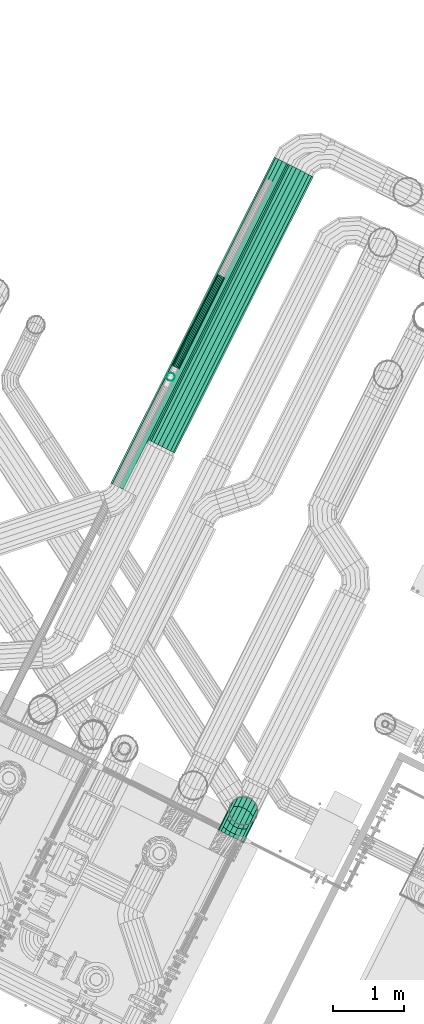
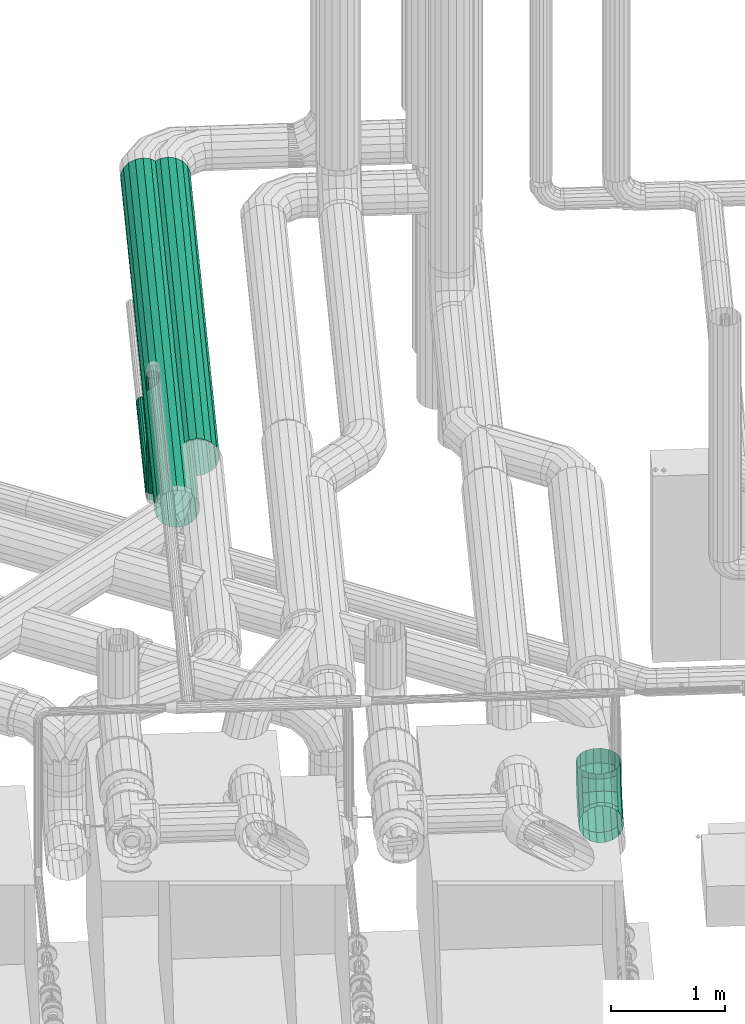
# One storey, part 22 of 206: 4 flow segments, 2 flow fittings.
"""IFC2X3 building model written with IfcOpenShell, lengths in metres."""

from ifc_helpers import new_model, si_unit, derived_unit, direction, frame, origin, place, context, subcontext, project, spatial, face_set, surface_model, source, transform, mapped, material, type_object, type_shapes, element, save


model = new_model("IFC2X3")

# Units and contexts
model_context = context("Model", 3, precision=5.2338327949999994e-05, world=origin(), true_north=direction((0.0, 1.0)))
body_context = subcontext(model_context, "Body", "Model", "MODEL_VIEW")
ifc_project = project(units=[si_unit("LENGTHUNIT", "METRE"), si_unit("AREAUNIT", "SQUARE_METRE"), si_unit("VOLUMEUNIT", "CUBIC_METRE"), si_unit("MASSUNIT", "GRAM", prefix="KILO"), si_unit("PLANEANGLEUNIT", "RADIAN"), derived_unit("THERMALTRANSMITTANCEUNIT", [(si_unit("MASSUNIT", "GRAM", prefix="KILO"), 1), (si_unit("THERMODYNAMICTEMPERATUREUNIT", "KELVIN"), -1), (si_unit("TIMEUNIT", "SECOND"), -3)])], contexts=[model_context])

# Site, building, storey
site_placement = place(None, frame((0.0, 0.0, 0.0), z_axis=(0.0, 0.0, 1.0), x_axis=(0.8939966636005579, -0.4480736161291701, 0.0)))
site = spatial("IfcSite", under=ifc_project, at=site_placement, Name="Default", CompositionType="ELEMENT")
building_placement = place(site_placement, origin())
building = spatial("IfcBuilding", under=site, at=building_placement, CompositionType="ELEMENT")
storey_placement = place(building_placement, origin())
storey = spatial("IfcBuildingStorey", under=building, at=storey_placement, Name="Erdgeschoss", CompositionType="ELEMENT", Elevation=0.0)

# Flow fittings
ifc_material_1 = material(Name="IfcSurfaceStyle #251447")
distribution_element_type_1 = type_object("IfcDistributionElementType", material=ifc_material_1)
shared_shape_1 = source(origin(), body_context, "Body", "SurfaceModel", [
    surface_model("IfcFaceBasedSurfaceModel", [(27.115508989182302, 8.028208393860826, 1.2300000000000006), (27.127570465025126, 8.028208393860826, 1.2984040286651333), (27.127570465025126, 8.11705926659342, 1.2984040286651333), (27.115508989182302, 8.135388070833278, 1.2300000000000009), (27.162300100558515, 8.028208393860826, 1.3585575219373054), (27.162300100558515, 8.10094118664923, 1.3585575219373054), (27.215508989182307, 8.028208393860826, 1.4032050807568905), (27.215508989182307, 8.088977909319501, 1.4032050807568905), (27.280779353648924, 8.028208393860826, 1.4269615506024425), (27.280779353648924, 8.082612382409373, 1.4269615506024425), (27.350238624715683, 8.028208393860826, 1.4269615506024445), (27.350238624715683, 8.082612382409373, 1.4269615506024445), (27.415508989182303, 8.028208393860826, 1.4032050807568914), (27.415508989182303, 8.088977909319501, 1.4032050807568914), (27.468717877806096, 8.028208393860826, 1.35855752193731), (27.468717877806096, 8.10094118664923, 1.35855752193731), (27.503447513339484, 8.028208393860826, 1.2984040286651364), (27.503447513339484, 8.117059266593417, 1.2984040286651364), (27.51550898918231, 8.028208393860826, 1.230000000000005), (27.515508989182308, 8.135388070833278, 1.2299999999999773), (27.503447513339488, 8.028208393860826, 1.1615959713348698), (27.503447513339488, 8.153716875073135, 1.1615959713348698), (27.4687178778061, 8.028208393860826, 1.1014424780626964), (27.4687178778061, 8.169834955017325, 1.1014424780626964), (27.415508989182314, 8.028208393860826, 1.0567949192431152), (27.415508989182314, 8.181798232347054, 1.0567949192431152), (27.350238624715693, 8.028208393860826, 1.0330384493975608), (27.350238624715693, 8.188163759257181, 1.0330384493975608), (27.280779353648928, 8.028208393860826, 1.03303844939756), (27.280779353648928, 8.188163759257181, 1.03303844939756), (27.21550898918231, 8.028208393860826, 1.0567949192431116), (27.21550898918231, 8.181798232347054, 1.0567949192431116), (27.162300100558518, 8.028208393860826, 1.1014424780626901), (27.162300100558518, 8.169834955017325, 1.1014424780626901), (27.127570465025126, 8.028208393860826, 1.1615959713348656), (27.127570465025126, 8.153716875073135, 1.1615959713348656), (27.12757046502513, 8.270953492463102, 1.3872549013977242), (27.115508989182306, 8.321028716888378, 1.3371796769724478), (27.162300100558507, 8.22691807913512, 1.4312903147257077), (27.2155089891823, 8.194233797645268, 1.4639745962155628), (27.280779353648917, 8.176842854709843, 1.481365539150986), (27.350238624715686, 8.176842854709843, 1.481365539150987), (27.415508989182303, 8.194233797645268, 1.4639745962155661), (27.468717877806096, 8.22691807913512, 1.4312903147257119), (27.50344751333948, 8.270953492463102, 1.387254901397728), (27.515508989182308, 8.321028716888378, 1.3371796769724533), (27.503447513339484, 8.371103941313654, 1.2871044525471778), (27.4687178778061, 8.415139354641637, 1.2430690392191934), (27.415508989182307, 8.447823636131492, 1.210384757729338), (27.350238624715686, 8.465214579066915, 1.192993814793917), (27.280779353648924, 8.465214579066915, 1.192993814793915), (27.21550898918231, 8.447823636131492, 1.210384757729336), (27.162300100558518, 8.415139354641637, 1.2430690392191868), (27.127570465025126, 8.371103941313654, 1.2871044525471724), (27.127570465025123, 8.359804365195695, 1.5411491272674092), (27.1155089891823, 8.428208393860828, 1.5228203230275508), (27.162300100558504, 8.29965087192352, 1.5572672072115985), (27.2155089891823, 8.255003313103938, 1.5692304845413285), (27.280779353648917, 8.231246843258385, 1.5755960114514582), (27.350238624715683, 8.231246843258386, 1.5755960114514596), (27.4155089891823, 8.25500331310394, 1.56923048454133), (27.468717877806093, 8.29965087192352, 1.557267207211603), (27.50344751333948, 8.359804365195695, 1.5411491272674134), (27.515508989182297, 8.428208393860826, 1.522820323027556), (27.503447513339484, 8.496612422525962, 1.5044915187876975), (27.468717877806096, 8.556765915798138, 1.4883734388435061), (27.4155089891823, 8.601413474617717, 1.4764101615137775), (27.350238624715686, 8.625169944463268, 1.4700446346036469), (27.280779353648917, 8.625169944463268, 1.4700446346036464), (27.2155089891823, 8.601413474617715, 1.4764101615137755), (27.162300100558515, 8.556765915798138, 1.4883734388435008), (27.127570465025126, 8.496612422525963, 1.5044915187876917), (27.127570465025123, 8.359804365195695, 1.6299999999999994), (27.115508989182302, 8.428208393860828, 1.6299999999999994), (27.162300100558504, 8.29965087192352, 1.6300000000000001), (27.215508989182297, 8.255003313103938, 1.6300000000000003), (27.280779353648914, 8.231246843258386, 1.6300000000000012), (27.350238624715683, 8.231246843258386, 1.630000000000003), (27.4155089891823, 8.255003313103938, 1.630000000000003), (27.468717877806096, 8.299650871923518, 1.6300000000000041), (27.50344751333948, 8.359804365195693, 1.6300000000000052), (27.51550898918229, 8.42820839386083, 1.6300000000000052), (27.503447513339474, 8.496612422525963, 1.6300000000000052), (27.468717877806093, 8.556765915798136, 1.6300000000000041), (27.4155089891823, 8.601413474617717, 1.630000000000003), (27.350238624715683, 8.625169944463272, 1.6300000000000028), (27.280779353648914, 8.62516994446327, 1.6300000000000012), (27.215508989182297, 8.601413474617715, 1.6300000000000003), (27.162300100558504, 8.556765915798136, 1.6300000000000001), (27.127570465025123, 8.496612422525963, 1.6299999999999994)], [face_set([[[0, 1, 2, 3]], [[1, 4, 5, 2]], [[4, 6, 7, 5]], [[6, 8, 9, 7]], [[8, 10, 11, 9]], [[10, 12, 13, 11]], [[12, 14, 15, 13]], [[14, 16, 17, 15]], [[16, 18, 19, 17]], [[18, 20, 21, 19]], [[20, 22, 23, 21]], [[22, 24, 25, 23]], [[24, 26, 27, 25]], [[26, 28, 29, 27]], [[28, 30, 31, 29]], [[30, 32, 33, 31]], [[32, 34, 35, 33]], [[34, 0, 3, 35]], [[3, 2, 36, 37]], [[2, 5, 38, 36]], [[5, 7, 39, 38]], [[7, 9, 40, 39]], [[9, 11, 41, 40]], [[11, 13, 42, 41]], [[13, 15, 43, 42]], [[15, 17, 44, 43]], [[17, 19, 45, 44]], [[19, 21, 46, 45]], [[21, 23, 47, 46]], [[23, 25, 48, 47]], [[25, 27, 49, 48]], [[27, 29, 50, 49]], [[29, 31, 51, 50]], [[31, 33, 52, 51]], [[33, 35, 53, 52]], [[35, 3, 37, 53]], [[37, 36, 54, 55]], [[36, 38, 56, 54]], [[38, 39, 57, 56]], [[39, 40, 58, 57]], [[40, 41, 59, 58]], [[41, 42, 60, 59]], [[42, 43, 61, 60]], [[43, 44, 62, 61]], [[44, 45, 63, 62]], [[45, 46, 64, 63]], [[46, 47, 65, 64]], [[47, 48, 66, 65]], [[48, 49, 67, 66]], [[49, 50, 68, 67]], [[50, 51, 69, 68]], [[51, 52, 70, 69]], [[52, 53, 71, 70]], [[53, 37, 55, 71]], [[55, 54, 72, 73]], [[54, 56, 74, 72]], [[56, 57, 75, 74]], [[57, 58, 76, 75]], [[58, 59, 77, 76]], [[59, 60, 78, 77]], [[60, 61, 79, 78]], [[61, 62, 80, 79]], [[62, 63, 81, 80]], [[63, 64, 82, 81]], [[64, 65, 83, 82]], [[65, 66, 84, 83]], [[66, 67, 85, 84]], [[67, 68, 86, 85]], [[68, 69, 87, 86]], [[69, 70, 88, 87]], [[70, 71, 89, 88]], [[71, 55, 73, 89]]])]),
])
type_shapes(distribution_element_type_1, [shared_shape_1])
flow_fitting_1_placement = place(storey_placement, origin())
element("IfcFlowFitting", 1, at=flow_fitting_1_placement, inside=storey, type_object=distribution_element_type_1, material=ifc_material_1, Name="Segmentbogen 4 teilig", ObjectType="Segmentbogen 4 teilig", context=body_context, shape_type="MappedRepresentation", body=[
    mapped(shared_shape_1, transform((0.0, 0.0, 0.0), scale=1.0)),
])
distribution_element_type_2 = type_object("IfcDistributionElementType", material=ifc_material_1)
shared_shape_2 = source(origin(), body_context, "Body", "SurfaceModel", [
    surface_model("IfcFaceBasedSurfaceModel", [(27.115508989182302, 8.028208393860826, 1.2300000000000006), (27.127570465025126, 8.028208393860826, 1.2984040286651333), (27.127570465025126, 8.11705926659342, 1.2984040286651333), (27.115508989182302, 8.135388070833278, 1.2300000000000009), (27.162300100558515, 8.028208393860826, 1.3585575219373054), (27.162300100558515, 8.10094118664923, 1.3585575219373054), (27.215508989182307, 8.028208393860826, 1.4032050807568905), (27.215508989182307, 8.088977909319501, 1.4032050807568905), (27.280779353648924, 8.028208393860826, 1.4269615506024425), (27.280779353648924, 8.082612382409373, 1.4269615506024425), (27.350238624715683, 8.028208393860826, 1.4269615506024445), (27.350238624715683, 8.082612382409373, 1.4269615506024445), (27.415508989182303, 8.028208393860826, 1.4032050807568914), (27.415508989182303, 8.088977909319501, 1.4032050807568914), (27.468717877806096, 8.028208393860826, 1.35855752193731), (27.468717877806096, 8.10094118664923, 1.35855752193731), (27.503447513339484, 8.028208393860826, 1.2984040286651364), (27.503447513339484, 8.117059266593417, 1.2984040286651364), (27.51550898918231, 8.028208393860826, 1.230000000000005), (27.515508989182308, 8.135388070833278, 1.2299999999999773), (27.503447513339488, 8.028208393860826, 1.1615959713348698), (27.503447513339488, 8.153716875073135, 1.1615959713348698), (27.4687178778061, 8.028208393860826, 1.1014424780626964), (27.4687178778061, 8.169834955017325, 1.1014424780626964), (27.415508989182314, 8.028208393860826, 1.0567949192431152), (27.415508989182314, 8.181798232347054, 1.0567949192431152), (27.350238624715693, 8.028208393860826, 1.0330384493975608), (27.350238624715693, 8.188163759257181, 1.0330384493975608), (27.280779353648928, 8.028208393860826, 1.03303844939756), (27.280779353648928, 8.188163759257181, 1.03303844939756), (27.21550898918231, 8.028208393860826, 1.0567949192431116), (27.21550898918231, 8.181798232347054, 1.0567949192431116), (27.162300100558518, 8.028208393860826, 1.1014424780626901), (27.162300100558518, 8.169834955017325, 1.1014424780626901), (27.127570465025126, 8.028208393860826, 1.1615959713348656), (27.127570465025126, 8.153716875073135, 1.1615959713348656), (27.12757046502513, 8.270953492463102, 1.3872549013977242), (27.115508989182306, 8.321028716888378, 1.3371796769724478), (27.162300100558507, 8.22691807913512, 1.4312903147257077), (27.2155089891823, 8.194233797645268, 1.4639745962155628), (27.280779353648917, 8.176842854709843, 1.481365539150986), (27.350238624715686, 8.176842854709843, 1.481365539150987), (27.415508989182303, 8.194233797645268, 1.4639745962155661), (27.468717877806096, 8.22691807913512, 1.4312903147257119), (27.50344751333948, 8.270953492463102, 1.387254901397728), (27.515508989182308, 8.321028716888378, 1.3371796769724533), (27.503447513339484, 8.371103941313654, 1.2871044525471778), (27.4687178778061, 8.415139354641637, 1.2430690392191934), (27.415508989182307, 8.447823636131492, 1.210384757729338), (27.350238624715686, 8.465214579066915, 1.192993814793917), (27.280779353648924, 8.465214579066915, 1.192993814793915), (27.21550898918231, 8.447823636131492, 1.210384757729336), (27.162300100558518, 8.415139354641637, 1.2430690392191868), (27.127570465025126, 8.371103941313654, 1.2871044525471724), (27.127570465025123, 8.359804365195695, 1.5411491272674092), (27.1155089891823, 8.428208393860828, 1.5228203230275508), (27.162300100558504, 8.29965087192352, 1.5572672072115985), (27.2155089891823, 8.255003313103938, 1.5692304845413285), (27.280779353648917, 8.231246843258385, 1.5755960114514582), (27.350238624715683, 8.231246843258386, 1.5755960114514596), (27.4155089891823, 8.25500331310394, 1.56923048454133), (27.468717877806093, 8.29965087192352, 1.557267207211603), (27.50344751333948, 8.359804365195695, 1.5411491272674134), (27.515508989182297, 8.428208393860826, 1.522820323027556), (27.503447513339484, 8.496612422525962, 1.5044915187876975), (27.468717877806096, 8.556765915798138, 1.4883734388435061), (27.4155089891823, 8.601413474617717, 1.4764101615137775), (27.350238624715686, 8.625169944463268, 1.4700446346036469), (27.280779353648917, 8.625169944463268, 1.4700446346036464), (27.2155089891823, 8.601413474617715, 1.4764101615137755), (27.162300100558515, 8.556765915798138, 1.4883734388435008), (27.127570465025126, 8.496612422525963, 1.5044915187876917), (27.127570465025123, 8.359804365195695, 1.6299999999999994), (27.115508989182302, 8.428208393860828, 1.6299999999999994), (27.162300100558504, 8.29965087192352, 1.6300000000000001), (27.215508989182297, 8.255003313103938, 1.6300000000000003), (27.280779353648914, 8.231246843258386, 1.6300000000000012), (27.350238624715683, 8.231246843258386, 1.630000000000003), (27.4155089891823, 8.255003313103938, 1.630000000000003), (27.468717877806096, 8.299650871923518, 1.6300000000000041), (27.50344751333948, 8.359804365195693, 1.6300000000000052), (27.51550898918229, 8.42820839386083, 1.6300000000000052), (27.503447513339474, 8.496612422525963, 1.6300000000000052), (27.468717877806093, 8.556765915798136, 1.6300000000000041), (27.4155089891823, 8.601413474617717, 1.630000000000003), (27.350238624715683, 8.625169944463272, 1.6300000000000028), (27.280779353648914, 8.62516994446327, 1.6300000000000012), (27.215508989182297, 8.601413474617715, 1.6300000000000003), (27.162300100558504, 8.556765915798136, 1.6300000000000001), (27.127570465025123, 8.496612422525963, 1.6299999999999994)], [face_set([[[0, 1, 2, 3]], [[1, 4, 5, 2]], [[4, 6, 7, 5]], [[6, 8, 9, 7]], [[8, 10, 11, 9]], [[10, 12, 13, 11]], [[12, 14, 15, 13]], [[14, 16, 17, 15]], [[16, 18, 19, 17]], [[18, 20, 21, 19]], [[20, 22, 23, 21]], [[22, 24, 25, 23]], [[24, 26, 27, 25]], [[26, 28, 29, 27]], [[28, 30, 31, 29]], [[30, 32, 33, 31]], [[32, 34, 35, 33]], [[34, 0, 3, 35]], [[3, 2, 36, 37]], [[2, 5, 38, 36]], [[5, 7, 39, 38]], [[7, 9, 40, 39]], [[9, 11, 41, 40]], [[11, 13, 42, 41]], [[13, 15, 43, 42]], [[15, 17, 44, 43]], [[17, 19, 45, 44]], [[19, 21, 46, 45]], [[21, 23, 47, 46]], [[23, 25, 48, 47]], [[25, 27, 49, 48]], [[27, 29, 50, 49]], [[29, 31, 51, 50]], [[31, 33, 52, 51]], [[33, 35, 53, 52]], [[35, 3, 37, 53]], [[37, 36, 54, 55]], [[36, 38, 56, 54]], [[38, 39, 57, 56]], [[39, 40, 58, 57]], [[40, 41, 59, 58]], [[41, 42, 60, 59]], [[42, 43, 61, 60]], [[43, 44, 62, 61]], [[44, 45, 63, 62]], [[45, 46, 64, 63]], [[46, 47, 65, 64]], [[47, 48, 66, 65]], [[48, 49, 67, 66]], [[49, 50, 68, 67]], [[50, 51, 69, 68]], [[51, 52, 70, 69]], [[52, 53, 71, 70]], [[53, 37, 55, 71]], [[55, 54, 72, 73]], [[54, 56, 74, 72]], [[56, 57, 75, 74]], [[57, 58, 76, 75]], [[58, 59, 77, 76]], [[59, 60, 78, 77]], [[60, 61, 79, 78]], [[61, 62, 80, 79]], [[62, 63, 81, 80]], [[63, 64, 82, 81]], [[64, 65, 83, 82]], [[65, 66, 84, 83]], [[66, 67, 85, 84]], [[67, 68, 86, 85]], [[68, 69, 87, 86]], [[69, 70, 88, 87]], [[70, 71, 89, 88]], [[71, 55, 73, 89]]])]),
])
type_shapes(distribution_element_type_2, [shared_shape_2])
flow_fitting_2_placement = place(storey_placement, origin())
element("IfcFlowFitting", 2, at=flow_fitting_2_placement, inside=storey, type_object=distribution_element_type_2, material=ifc_material_1, Name="Segmentbogen 4 teilig", ObjectType="Segmentbogen 4 teilig", context=body_context, shape_type="MappedRepresentation", body=[
    mapped(shared_shape_2, transform((0.0, 0.0, 0.0), scale=1.0)),
])

# Flow segments
distribution_element_type_3 = type_object("IfcDistributionElementType", Name="Wickelfalzrohr 296433:Wickelfalzrohr 296433", material=ifc_material_1)
shared_shape_3 = source(origin(), body_context, "Body", "SurfaceModel", [
    surface_model("IfcFaceBasedSurfaceModel", [(24.01588544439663, 12.473429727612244, 2.400000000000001), (24.084289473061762, 12.473429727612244, 2.3879385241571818), (24.084289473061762, 16.797595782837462, 2.3879385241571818), (24.01588544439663, 16.797595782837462, 2.400000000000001), (24.14444296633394, 12.473429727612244, 2.353208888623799), (24.14444296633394, 16.797595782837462, 2.353208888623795), (24.189090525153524, 12.473429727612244, 2.2999999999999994), (24.189090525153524, 16.797595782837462, 2.2999999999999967), (24.212846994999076, 12.473429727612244, 2.2347296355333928), (24.21284699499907, 16.797595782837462, 2.2347296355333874), (24.212846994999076, 12.473429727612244, 2.1652703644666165), (24.212846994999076, 16.797595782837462, 2.165270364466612), (24.189090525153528, 12.473429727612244, 2.100000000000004), (24.18909052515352, 16.797595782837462, 2.0999999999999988), (24.144442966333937, 12.473429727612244, 2.04679111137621), (24.144442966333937, 16.797595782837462, 2.0467911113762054), (24.084289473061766, 12.473429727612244, 2.0120614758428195), (24.08428947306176, 16.797595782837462, 2.0120614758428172), (24.015885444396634, 12.473429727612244, 2.0), (24.01588544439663, 16.797595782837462, 2.0), (23.947481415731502, 12.473429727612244, 2.0120614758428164), (23.947481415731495, 16.797595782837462, 2.01206147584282), (23.887327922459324, 12.473429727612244, 2.0467911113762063), (23.88732792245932, 16.797595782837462, 2.046791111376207), (23.842680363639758, 12.473429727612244, 2.0999999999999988), (23.84268036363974, 16.797595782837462, 2.100000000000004), (23.81892389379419, 12.473429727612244, 2.165270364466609), (23.818923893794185, 16.797595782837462, 2.1652703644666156), (23.818923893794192, 12.473429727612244, 2.2347296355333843), (23.818923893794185, 16.797595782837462, 2.23472963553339), (23.842680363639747, 12.473429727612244, 2.2999999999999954), (23.84268036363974, 16.797595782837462, 2.3000000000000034), (23.887327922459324, 12.473429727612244, 2.3532088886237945), (23.88732792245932, 16.797595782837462, 2.3532088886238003), (23.9474814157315, 12.473429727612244, 2.3879385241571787), (23.947481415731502, 16.797595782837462, 2.3879385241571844)], [face_set([[[0, 1, 2, 3]], [[1, 4, 5, 2]], [[4, 6, 7, 5]], [[6, 8, 9, 7]], [[8, 10, 11, 9]], [[10, 12, 13, 11]], [[12, 14, 15, 13]], [[14, 16, 17, 15]], [[16, 18, 19, 17]], [[18, 20, 21, 19]], [[20, 22, 23, 21]], [[22, 24, 25, 23]], [[24, 26, 27, 25]], [[26, 28, 29, 27]], [[28, 30, 31, 29]], [[30, 32, 33, 31]], [[32, 34, 35, 33]], [[34, 0, 3, 35]]])]),
])
type_shapes(distribution_element_type_3, [shared_shape_3])
flow_segment_1_placement = place(storey_placement, origin())
element("IfcFlowSegment", 3, at=flow_segment_1_placement, inside=storey, type_object=distribution_element_type_3, material=ifc_material_1, Name="Wickelfalzrohr", ObjectType="Wickelfalzrohr", context=body_context, shape_type="MappedRepresentation", body=[
    mapped(shared_shape_3, transform((0.0, 0.0, 0.0), scale=1.0)),
])
ifc_material_2 = material(Name="IfcSurfaceStyle #352577")
distribution_element_type_4 = type_object("IfcDistributionElementType", Name="Stahlrohr nach DIN 2448 352592:Stahlrohr nach DIN 2448 352592", material=ifc_material_2)
shared_shape_4 = source(origin(), body_context, "Body", "SurfaceModel", [
    surface_model("IfcFaceBasedSurfaceModel", [(23.68383026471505, 14.980492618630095, 1.114300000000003), (23.664283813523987, 14.980492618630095, 1.1108534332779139), (23.664283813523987, 13.552101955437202, 1.1108534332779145), (23.68383026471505, 13.552101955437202, 1.1143000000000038), (23.64709495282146, 14.980492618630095, 1.100929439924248), (23.647094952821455, 13.552101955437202, 1.1009294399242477), (23.634336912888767, 14.980492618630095, 1.085725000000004), (23.634336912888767, 13.552101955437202, 1.0857250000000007), (23.6275485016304, 14.980492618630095, 1.0670739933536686), (23.6275485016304, 13.552101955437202, 1.0670739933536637), (23.6275485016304, 14.980492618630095, 1.047226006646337), (23.6275485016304, 13.552101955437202, 1.0472260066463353), (23.634336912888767, 14.980492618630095, 1.028574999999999), (23.634336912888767, 13.552101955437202, 1.0285749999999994), (23.647094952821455, 14.980492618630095, 1.0133705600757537), (23.647094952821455, 13.552101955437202, 1.0133705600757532), (23.664283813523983, 14.980492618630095, 1.003446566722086), (23.664283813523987, 13.552101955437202, 1.003446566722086), (23.683830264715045, 14.980492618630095, 1.0), (23.683830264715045, 13.552101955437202, 1.0), (23.7033767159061, 14.980492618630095, 1.0034465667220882), (23.703376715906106, 13.552101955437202, 1.0034465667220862), (23.720565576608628, 14.980492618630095, 1.0133705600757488), (23.720565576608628, 13.552101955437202, 1.0133705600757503), (23.733323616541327, 14.980492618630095, 1.0285749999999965), (23.733323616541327, 13.552101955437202, 1.0285750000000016), (23.74011202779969, 14.980492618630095, 1.0472260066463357), (23.740112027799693, 13.552101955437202, 1.0472260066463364), (23.74011202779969, 14.980492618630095, 1.0670739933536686), (23.74011202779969, 13.552101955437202, 1.067073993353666), (23.733323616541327, 14.980492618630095, 1.0857250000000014), (23.733323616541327, 13.552101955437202, 1.0857250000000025), (23.72056557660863, 14.980492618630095, 1.1009294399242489), (23.720565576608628, 13.552101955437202, 1.1009294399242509), (23.70337671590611, 14.980492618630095, 1.1108534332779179), (23.703376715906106, 13.552101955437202, 1.1108534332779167)], [face_set([[[0, 1, 2, 3]], [[1, 4, 5, 2]], [[4, 6, 7, 5]], [[6, 8, 9, 7]], [[8, 10, 11, 9]], [[10, 12, 13, 11]], [[12, 14, 15, 13]], [[14, 16, 17, 15]], [[16, 18, 19, 17]], [[18, 20, 21, 19]], [[20, 22, 23, 21]], [[22, 24, 25, 23]], [[24, 26, 27, 25]], [[26, 28, 29, 27]], [[28, 30, 31, 29]], [[30, 32, 33, 31]], [[32, 34, 35, 33]], [[34, 0, 3, 35]]])]),
])
type_shapes(distribution_element_type_4, [shared_shape_4])
flow_segment_2_placement = place(storey_placement, origin())
element("IfcFlowSegment", 4, at=flow_segment_2_placement, inside=storey, type_object=distribution_element_type_4, material=ifc_material_2, Name="Stahlrohr nach DIN 2448", ObjectType="Stahlrohr nach DIN 2448", context=body_context, shape_type="MappedRepresentation", body=[
    mapped(shared_shape_4, transform((0.0, 0.0, 0.0), scale=1.0)),
])
distribution_element_type_5 = type_object("IfcDistributionElementType", Name="Stahlrohr nach DIN 2448 352776:Stahlrohr nach DIN 2448 352776", material=ifc_material_2)
shared_shape_5 = source(origin(), body_context, "Body", "SurfaceModel", [
    surface_model("IfcFaceBasedSurfaceModel", [(23.626680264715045, 13.400101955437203, 1.20915), (23.630126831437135, 13.38055550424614, 1.20915), (23.630126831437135, 13.38055550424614, 2.4531641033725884), (23.626680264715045, 13.4001019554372, 2.4531641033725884), (23.640050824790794, 13.363366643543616, 1.20915), (23.640050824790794, 13.363366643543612, 2.4531641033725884), (23.655255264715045, 13.350608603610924, 1.20915), (23.655255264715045, 13.350608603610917, 2.4531641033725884), (23.67390627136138, 13.34382019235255, 1.20915), (23.67390627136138, 13.34382019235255, 2.4531641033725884), (23.69375425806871, 13.34382019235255, 1.20915), (23.693754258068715, 13.34382019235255, 2.4531641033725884), (23.71240526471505, 13.350608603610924, 1.20915), (23.71240526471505, 13.350608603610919, 2.4531641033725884), (23.727609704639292, 13.363366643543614, 1.20915), (23.727609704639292, 13.363366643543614, 2.4531641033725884), (23.737533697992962, 13.380555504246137, 1.20915), (23.737533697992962, 13.38055550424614, 2.4531641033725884), (23.74098026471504, 13.4001019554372, 1.20915), (23.740980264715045, 13.4001019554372, 2.4531641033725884), (23.737533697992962, 13.419648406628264, 1.20915), (23.737533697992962, 13.419648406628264, 2.4531641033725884), (23.7276097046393, 13.436837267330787, 1.20915), (23.7276097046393, 13.436837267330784, 2.4531641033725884), (23.71240526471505, 13.449595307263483, 1.20915), (23.71240526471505, 13.44959530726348, 2.4531641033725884), (23.693754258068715, 13.45638371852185, 1.20915), (23.69375425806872, 13.456383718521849, 2.4531641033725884), (23.67390627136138, 13.456383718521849, 1.20915), (23.673906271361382, 13.456383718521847, 2.4531641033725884), (23.65525526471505, 13.44959530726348, 1.20915), (23.65525526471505, 13.44959530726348, 2.4531641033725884), (23.640050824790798, 13.436837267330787, 1.20915), (23.640050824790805, 13.43683726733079, 2.4531641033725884), (23.630126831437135, 13.419648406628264, 1.20915), (23.630126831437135, 13.419648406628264, 2.4531641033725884)], [face_set([[[0, 1, 2, 3]], [[1, 4, 5, 2]], [[4, 6, 7, 5]], [[6, 8, 9, 7]], [[8, 10, 11, 9]], [[10, 12, 13, 11]], [[12, 14, 15, 13]], [[14, 16, 17, 15]], [[16, 18, 19, 17]], [[18, 20, 21, 19]], [[20, 22, 23, 21]], [[22, 24, 25, 23]], [[24, 26, 27, 25]], [[26, 28, 29, 27]], [[28, 30, 31, 29]], [[30, 32, 33, 31]], [[32, 34, 35, 33]], [[34, 0, 3, 35]]])]),
])
type_shapes(distribution_element_type_5, [shared_shape_5])
flow_segment_3_placement = place(storey_placement, origin())
element("IfcFlowSegment", 5, at=flow_segment_3_placement, inside=storey, type_object=distribution_element_type_5, material=ifc_material_2, Name="Stahlrohr nach DIN 2448", ObjectType="Stahlrohr nach DIN 2448", context=body_context, shape_type="MappedRepresentation", body=[
    mapped(shared_shape_5, transform((0.0, 0.0, 0.0), scale=1.0)),
])
distribution_element_type_6 = type_object("IfcDistributionElementType", Name="Wickelfalzrohr 621055:Wickelfalzrohr 621055", material=ifc_material_1)
shared_shape_6 = source(origin(), body_context, "Body", "SurfaceModel", [
    surface_model("IfcFaceBasedSurfaceModel", [(23.796582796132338, 11.69521416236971, 2.4000000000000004), (23.86498682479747, 11.69521416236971, 2.3879385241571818), (23.86498682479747, 16.797595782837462, 2.387938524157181), (23.796582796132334, 16.797595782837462, 2.400000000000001), (23.925140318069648, 11.69521416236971, 2.353208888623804), (23.925140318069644, 16.797595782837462, 2.353208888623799), (23.96978787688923, 11.69521416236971, 2.3000000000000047), (23.96978787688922, 16.797595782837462, 2.300000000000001), (23.993544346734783, 11.69521416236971, 2.234729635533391), (23.99354434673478, 16.797595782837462, 2.234729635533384), (23.993544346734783, 11.69521416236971, 2.165270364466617), (23.99354434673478, 16.797595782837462, 2.1652703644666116), (23.969787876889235, 11.69521416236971, 2.1000000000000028), (23.96978787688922, 16.797595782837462, 2.0999999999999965), (23.92514031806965, 11.69521416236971, 2.0467911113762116), (23.925140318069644, 16.797595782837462, 2.0467911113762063), (23.864986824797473, 11.69521416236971, 2.01206147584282), (23.86498682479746, 16.797595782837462, 2.012061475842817), (23.79658279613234, 11.69521416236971, 2.0), (23.796582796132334, 16.797595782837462, 2.0), (23.72817876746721, 11.69521416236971, 2.012061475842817), (23.728178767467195, 16.797595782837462, 2.0120614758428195), (23.668025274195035, 11.69521416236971, 2.0467911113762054), (23.668025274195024, 16.797595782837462, 2.0467911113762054), (23.62337771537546, 11.69521416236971, 2.099999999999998), (23.623377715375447, 16.797595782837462, 2.1000000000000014), (23.599621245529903, 11.69521416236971, 2.165270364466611), (23.599621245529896, 16.797595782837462, 2.165270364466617), (23.599621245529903, 11.69521416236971, 2.234729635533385), (23.599621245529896, 16.797595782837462, 2.23472963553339), (23.62337771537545, 11.69521416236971, 2.2999999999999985), (23.623377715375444, 16.797595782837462, 2.3000000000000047), (23.66802527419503, 11.69521416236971, 2.353208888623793), (23.668025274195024, 16.797595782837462, 2.3532088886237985), (23.728178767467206, 11.69521416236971, 2.3879385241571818), (23.728178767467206, 16.797595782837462, 2.3879385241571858)], [face_set([[[0, 1, 2, 3]], [[1, 4, 5, 2]], [[4, 6, 7, 5]], [[6, 8, 9, 7]], [[8, 10, 11, 9]], [[10, 12, 13, 11]], [[12, 14, 15, 13]], [[14, 16, 17, 15]], [[16, 18, 19, 17]], [[18, 20, 21, 19]], [[20, 22, 23, 21]], [[22, 24, 25, 23]], [[24, 26, 27, 25]], [[26, 28, 29, 27]], [[28, 30, 31, 29]], [[30, 32, 33, 31]], [[32, 34, 35, 33]], [[34, 0, 3, 35]]])]),
])
type_shapes(distribution_element_type_6, [shared_shape_6])
flow_segment_4_placement = place(storey_placement, origin())
element("IfcFlowSegment", 6, at=flow_segment_4_placement, inside=storey, type_object=distribution_element_type_6, material=ifc_material_1, Name="Wickelfalzrohr", ObjectType="Wickelfalzrohr", context=body_context, shape_type="MappedRepresentation", body=[
    mapped(shared_shape_6, transform((0.0, 0.0, 0.0), scale=1.0)),
])

save(model, "model.ifc")
